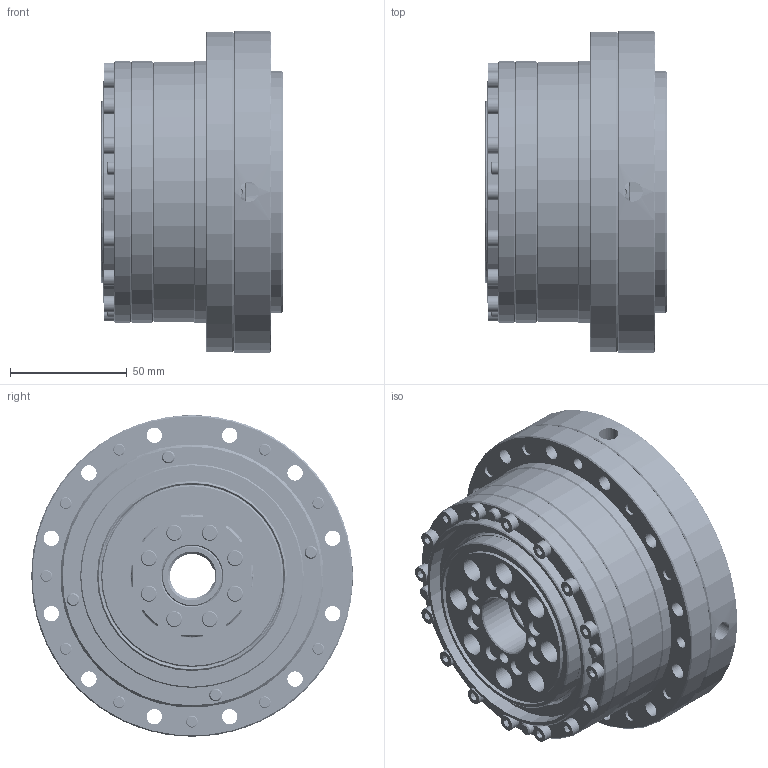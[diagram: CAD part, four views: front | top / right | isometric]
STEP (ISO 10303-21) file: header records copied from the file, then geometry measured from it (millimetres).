
FILE_DESCRIPTION (( 'STEP AP203' ), '1' );
FILE_NAME ('GCSG32-¡¼-19-70-90-M6Áä¼Ñ«¬).STEP', '2020-07-03T01:56:40', ( 'user' ), ( '' ), 'SwSTEP 2.0', 'SolidWorks 2012', '' );
FILE_SCHEMA (( 'CONFIG_CONTROL_DESIGN' ));
Length unit declared in the file: millimetre
Products named in the file (18): GCSG32波型產生器ψ19x22L鍵槽型; GCSG32入力座70-90-M6(鍵槽型)-21L; CSG-32型-鋼輪; CSG-32型-交叉軸承; M8-25L; CSG-32型-滾柱; CSG-32型-交叉軸承-後; GCSG32-□-19-70-90-M6鍵槽型); O型環S75-內74.5.5外78.5厚2; ISO 4762_M4 X 0~7_25_SIMP; O型環 S105; O型環S90; ISO 4762_M6 X 1_20_SIMP; CSG-32型-柔輪卡盤; CSG-32型-柔輪; 32型-柔性軸承; CSG-32型-交叉軸承-前; CSG-32型-交叉軸承-中
Assembly tree (48 placements, depth 3):
  GCSG32-□-19-70-90-M6鍵槽型)
    CSG-32型-交叉軸承
      CSG-32型-交叉軸承-中
      CSG-32型-交叉軸承-前
      CSG-32型-交叉軸承-後
      CSG-32型-滾柱
    32型-柔性軸承
    CSG-32型-柔輪
    CSG-32型-柔輪卡盤
    CSG-32型-鋼輪
    M8-25L  x8
    ISO 4762_M6 X 1_20_SIMP  x10
    O型環S90
    O型環 S105
    GCSG32入力座70-90-M6(鍵槽型)-21L
    GCSG32波型產生器ψ19x22L鍵槽型
    ISO 4762_M4 X 0~7_25_SIMP  x16
    O型環S75-內74.5.5外78.5厚2
Bounding box: 78.3 x 138 x 138 mm (x, y, z)
Volume: 586861.2 mm3; surface area: 259268 mm2
Topology: 47 solids, 47 shells, 4651 faces, 9739 edges, 5272 vertices
Faces by surface type: cone 3558, cylinder 607, plane 440, torus 46
Entity records: 37189 total; most frequent: DIRECTION 6709, CARTESIAN_POINT 5989, ORIENTED_EDGE 5390, AXIS2_PLACEMENT_3D 2816, EDGE_CURVE 2695, VERTEX_POINT 1608, CIRCLE 1584, EDGE_LOOP 1527
